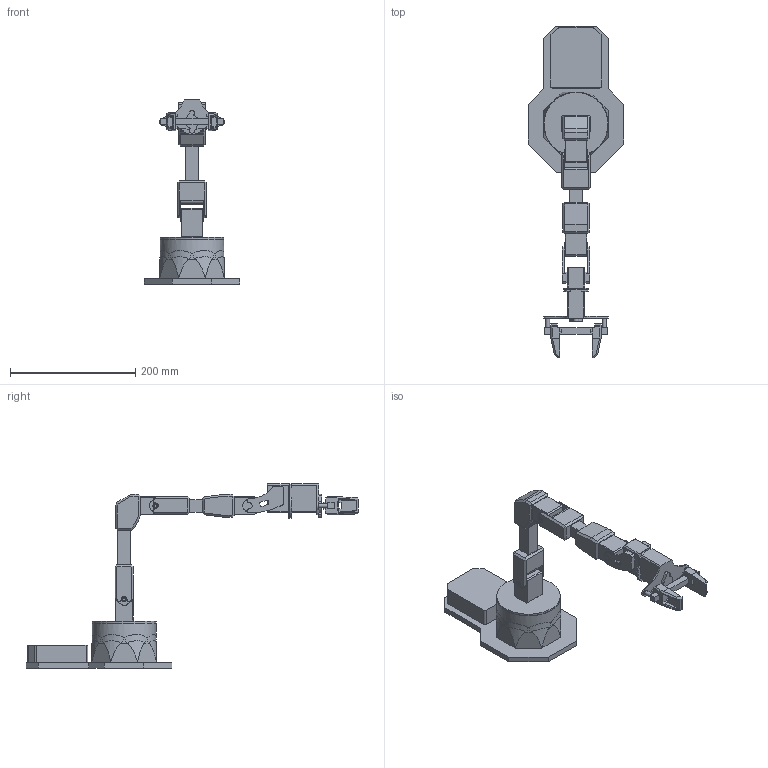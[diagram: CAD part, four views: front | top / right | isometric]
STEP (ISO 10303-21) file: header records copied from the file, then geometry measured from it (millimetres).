
FILE_DESCRIPTION(/* description */ (''),/* implementation_level */ '2;1');
FILE_NAME(/* name */ 'C:/Users/setup/Desktop/SOLIDS/3 - RXA-150-M/3 - RXA-150-M.step',/* time_stamp */ '2019-01-22T17:56:00-06:00',/* author */ ('wadecore'),/* organization */ (''),/* preprocessor_version */ 'ST-DEVELOPER v17.2',/* originating_system */ 'Autodesk Translation Framework v7.6.0.251',/* authorisation */ '');
FILE_SCHEMA (('AUTOMOTIVE_DESIGN { 1 0 10303 214 3 1 1 }'));
Length unit declared in the file: millimetre
Products named in the file (8): 3 - RXA-150-M; 430 Base; 430 Single Shoulder; UA - 3 - RX-150; Fore - 3 - RX-150; 430 - Wrist; SRG; SRG Carriage With Finger
Assembly tree (8 placements, depth 2):
  3 - RXA-150-M
    430 Base
    430 Single Shoulder
    UA - 3 - RX-150
    Fore - 3 - RX-150
    430 - Wrist
    SRG
    SRG Carriage With Finger  x2
Bounding box: 153.07 x 531.15 x 295.06 mm (x, y, z)
Volume: 1577926.5 mm3; surface area: 213935.8 mm2
Topology: 8 solids, 14 shells, 654 faces, 1664 edges, 1063 vertices
Faces by surface type: plane 459, cylinder 133, cone 38, bspline 24
Full cylindrical faces by diameter (mm): 2.05 x2, 3.8 x4, 4.5 x2, 4.9 x2, 6.3 x2, 8 x2, 19.5 x4, 20.5 x2, 40 x1, 62 x1, 96 x1, 102 x1, 102.181 x1
Entity records: 18799 total; most frequent: CARTESIAN_POINT 4126, ORIENTED_EDGE 3016, DIRECTION 2943, EDGE_CURVE 1508, LINE 1075, VECTOR 1075, VERTEX_POINT 959, AXIS2_PLACEMENT_3D 934
